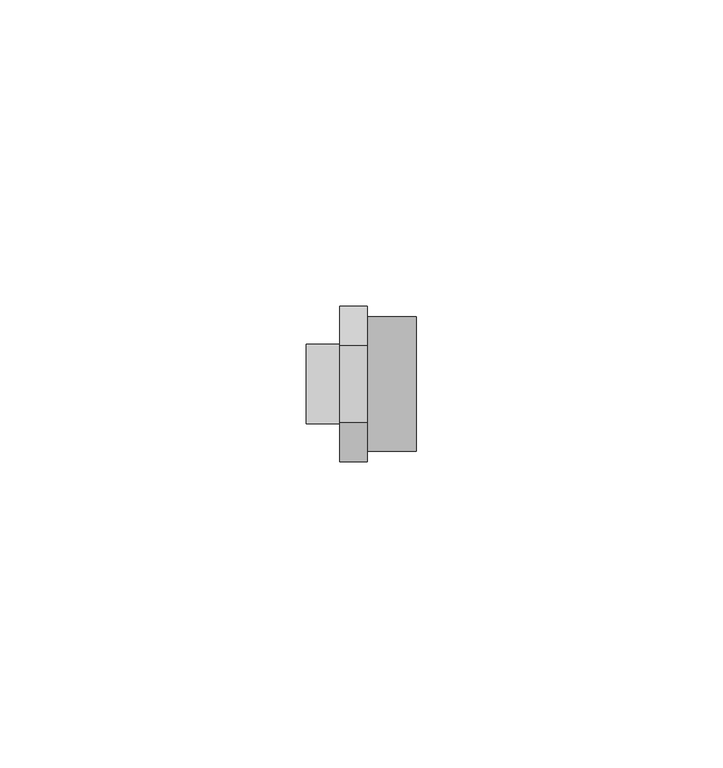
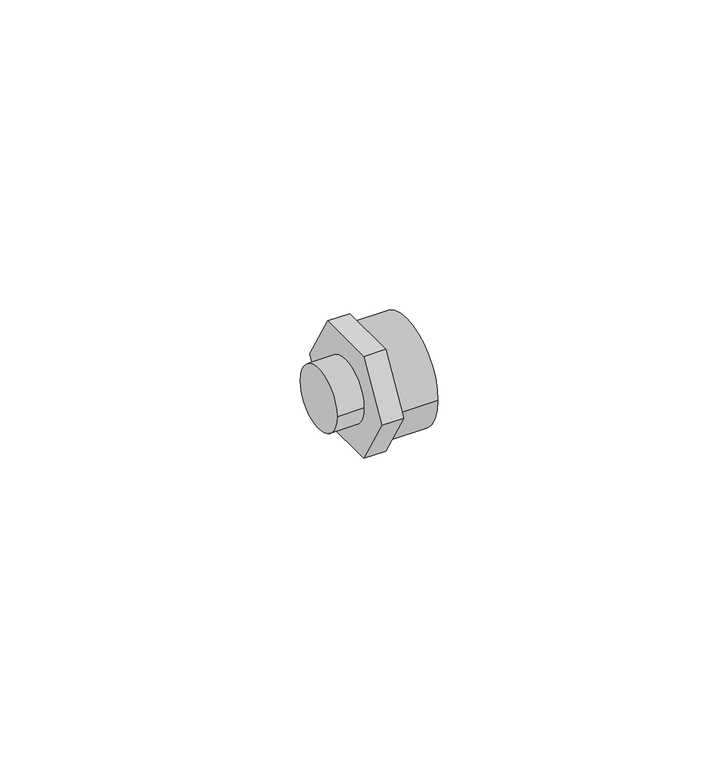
"""IFC4 building model written with IfcOpenShell, lengths in millimetres: pipe fitting geometry, 01101006 : Mamelons de réduction  F/M."""

from ifc_helpers import new_model, si_unit, point, frame, origin, origin_2d, place, context, project, spatial, polyline, circle_curve, trimmed, segment, composite_curve, outline, extrude, source, transform, mapped, element, save


def pipe_fitting_53a02365(model_context):
    return source(origin(), model_context, "Body", "SweptSolid", [
        extrude(outline(composite_curve([segment(trimmed(circle_curve(origin_2d(), 6.5), [point((6.5, 0.0))], [point((-6.5, 0.0))], False, "CARTESIAN"), True, "CONTINUOUS"), segment(trimmed(circle_curve(origin_2d(), 6.5), [point((-6.5, 0.0))], [point((6.5, 0.0))], False, "CARTESIAN"), True, "CONTINUOUS")], self_intersect=False)), frame((0.0, 0.0, 0.0), z_axis=(1.0, 0.0, 0.0), x_axis=(0.0, 1.0, 0.0)), (0.0, 0.0, 1.0), 5.5),
        extrude(outline(polyline([(-6.350853, 11.0), (6.350853, 11.0), (12.7017059, 0.0), (6.350853, -11.0), (-6.350853, -11.0), (-12.7017059, 0.0), (-6.350853, 11.0)])), frame((5.5, 0.0, 0.0), z_axis=(1.0, 0.0, 0.0), x_axis=(0.0, 1.0, 0.0)), (0.0, 0.0, 1.0), 4.5),
        extrude(outline(composite_curve([segment(trimmed(circle_curve(origin_2d(), 11.0), [point((-11.0, 0.0))], [point((11.0, 0.0))], False, "CARTESIAN"), True, "CONTINUOUS"), segment(trimmed(circle_curve(origin_2d(), 11.0), [point((11.0, 0.0))], [point((-11.0, 0.0))], False, "CARTESIAN"), True, "CONTINUOUS")], self_intersect=False)), frame((10.0, 0.0, 0.0), z_axis=(1.0, 0.0, 0.0), x_axis=(0.0, 1.0, 0.0)), (0.0, 0.0, 1.0), 8.0),
    ])


if __name__ == "__main__":
    model = new_model("IFC4")
    model_context = context("Model", 3, world=origin())
    ifc_project = project(units=[si_unit("LENGTHUNIT", "METRE", prefix="MILLI")], contexts=[model_context])
    site = spatial("IfcSite", under=ifc_project)
    building = spatial("IfcBuilding", under=site)
    placement = place(None, origin())
    pipe_fitting_shape = pipe_fitting_53a02365(model_context)
    element("IfcPipeFitting", 1, ObjectType="01101006 : Mamelons de réduction  F/M", at=placement, inside=building, context=model_context, shape_type="MappedRepresentation", body=[
        mapped(pipe_fitting_shape, transform((0.0, 0.0, 0.0), x_axis=(1.0, 0.0, 0.0), y_axis=(0.0, 1.0, 0.0), z_axis=(0.0, 0.0, 1.0))),
    ])
    save(model, "model.ifc")
